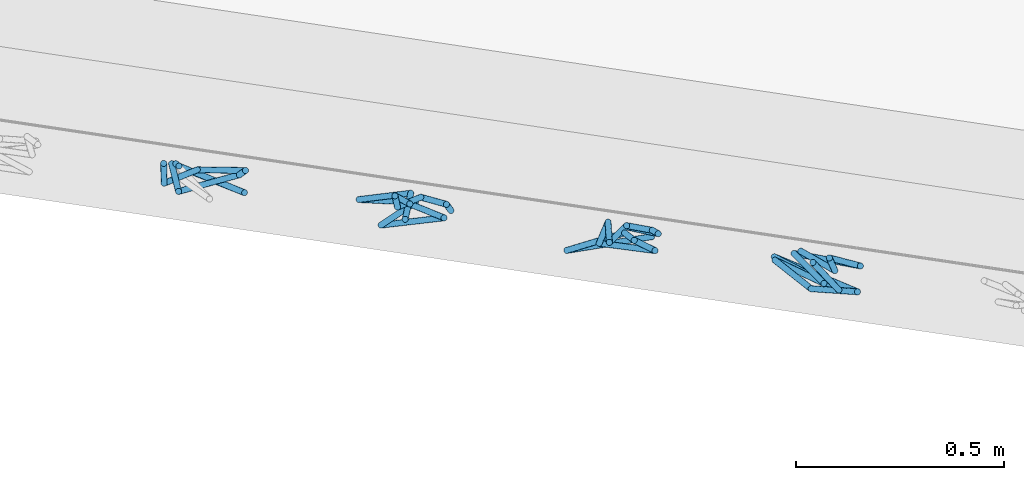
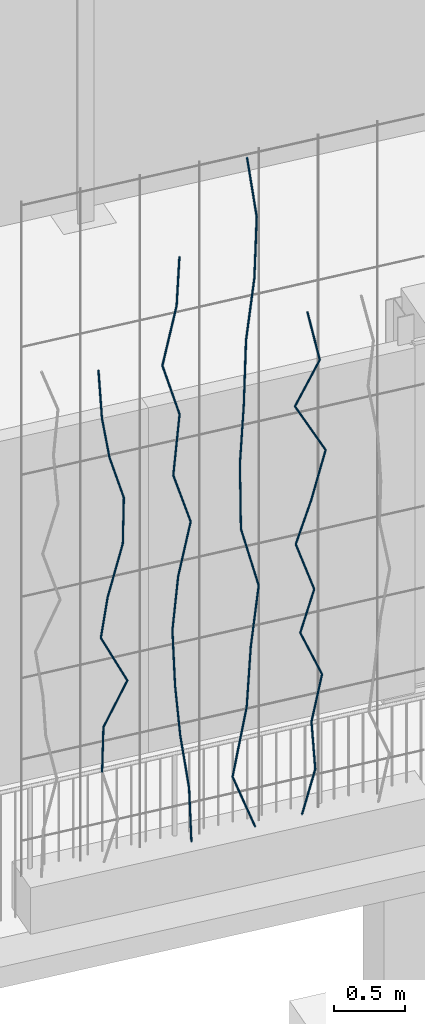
# One storey, part 112 of 143: 42 members, 1 element without a shape of its own.
"""IFC4 building model written with IfcOpenShell, lengths in metres."""

from ifc_helpers import new_model, si_unit, direction, frame, origin_with_axes, place, context, subcontext, project, spatial, circle, extrude, material, material_profile, profile_set, profile_usage, type_object, element, aggregate, save


model = new_model("IFC4")

# Units and contexts
model_context = context("Model", 3, precision=1e-05, world=origin_with_axes(), true_north=direction((0.0, 1.0)))
body_context = subcontext(model_context, "Body", "Model", "MODEL_VIEW")
ifc_project = project(units=[si_unit("VOLUMEUNIT", "CUBIC_METRE"), si_unit("LENGTHUNIT", "METRE"), si_unit("AREAUNIT", "SQUARE_METRE")], contexts=[model_context])

# Site, building, storey
site_placement = place(None, origin_with_axes())
site = spatial("IfcSite", under=ifc_project, at=site_placement, Name="Lares · Rua das Mercês · artigo 4771")
building_placement = place(site_placement, frame((15.0, 9.7, 15.8), z_axis=(0.0, 0.0, 1.0), x_axis=(0.989015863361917, -0.147809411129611, 0.0)))
building = spatial("IfcBuilding", under=site, at=building_placement, Name="Casa Sobreposta")
storey_placement = place(building_placement, origin_with_axes())
storey = spatial("IfcBuildingStorey", under=building, at=storey_placement, Name="00 · Habitação e estacionamento", Elevation=15.8)

# Assembly, members
assembly_placement = place(storey_placement, origin_with_axes())
assembly = element("IfcElementAssembly", 1, at=assembly_placement, inside=storey, Name="Fachada sul e pátio · estrutura e trepadeiras", ObjectType="LIVING_SHADE_TRELLIS", PredefinedType="USERDEFINED")
ifc_material = material(Name="Ramos de trepadeiras", Category="wood")
ifc_material_profile = material_profile(ifc_material, circle(Radius=0.0075))
ifc_profile_set = profile_set([ifc_material_profile], Name="D0.015")
ifc_profile_usage_1 = profile_usage(ifc_profile_set)
member_type = type_object("IfcMemberType", Name="D0.015 / vine_wood", PredefinedType="NOTDEFINED", material=ifc_profile_set)
member_1_placement = place(assembly_placement, frame((1.04551786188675, -1.65180114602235, 1.12023987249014), z_axis=(0.0216441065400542, -0.0116928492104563, 0.999697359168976), x_axis=(0.999765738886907, 0.000253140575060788, -0.0216426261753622)))
member_1 = element("IfcMember", 2, at=member_1_placement, type_object=member_type, material=ifc_profile_usage_1, Name="Trepadeiras · ramo", context=body_context, shape_type="SweptSolid", body=[
    extrude(circle(Radius=0.0075), origin_with_axes(), (0.0, 0.0, 1.0), 0.385236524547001),
])
ifc_profile_usage_2 = profile_usage(ifc_profile_set)
member_2_placement = place(assembly_placement, frame((1.05385596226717, -1.65630565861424, 1.50535980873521), z_axis=(0.393275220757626, -0.0947020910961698, 0.914530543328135), x_axis=(-0.234111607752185, -0.972209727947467, 0.0)))
member_2 = element("IfcMember", 3, at=member_2_placement, type_object=member_type, material=ifc_profile_usage_2, Name="Trepadeiras · ramo", context=body_context, shape_type="SweptSolid", body=[
    extrude(circle(Radius=0.0075), origin_with_axes(), (0.0, 0.0, 1.0), 0.421112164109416),
])
ifc_profile_usage_3 = profile_usage(ifc_profile_set)
member_3_placement = place(assembly_placement, frame((1.21946894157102, -1.69618586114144, 1.89047974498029), z_axis=(-0.42862490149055, 0.100433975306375, 0.89788290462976), x_axis=(0.228137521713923, 0.973628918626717, 0.0)))
member_3 = element("IfcMember", 4, at=member_3_placement, type_object=member_type, material=ifc_profile_usage_3, Name="Trepadeiras · ramo", context=body_context, shape_type="SweptSolid", body=[
    extrude(circle(Radius=0.0075), origin_with_axes(), (0.0, 0.0, 1.0), 0.428920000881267),
])
ifc_profile_usage_4 = profile_usage(ifc_profile_set)
member_4_placement = place(assembly_placement, frame((1.03562314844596, -1.65310772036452, 2.27559968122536), z_axis=(0.0671815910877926, -0.16244307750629, 0.984428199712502), x_axis=(-0.924089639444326, -0.382175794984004, 0.0)))
member_4 = element("IfcMember", 5, at=member_4_placement, type_object=member_type, material=ifc_profile_usage_4, Name="Trepadeiras · ramo", context=body_context, shape_type="SweptSolid", body=[
    extrude(circle(Radius=0.0075), origin_with_axes(), (0.0, 0.0, 1.0), 0.391211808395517),
])
ifc_profile_usage_5 = profile_usage(ifc_profile_set)
member_5_placement = place(assembly_placement, frame((1.0619053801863, -1.71665737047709, 2.66071961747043), z_axis=(0.335740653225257, 0.148049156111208, 0.930247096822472), x_axis=(0.403476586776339, -0.914989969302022, 0.0)))
member_5 = element("IfcMember", 6, at=member_5_placement, type_object=member_type, material=ifc_profile_usage_5, Name="Trepadeiras · ramo", context=body_context, shape_type="SweptSolid", body=[
    extrude(circle(Radius=0.0075), origin_with_axes(), (0.0, 0.0, 1.0), 0.413997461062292),
])
ifc_profile_usage_6 = profile_usage(ifc_profile_set)
member_6_placement = place(assembly_placement, frame((1.20090115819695, -1.65536539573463, 3.0458395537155), z_axis=(0.0333928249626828, 0.0321702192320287, 0.998924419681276), x_axis=(0.693800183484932, -0.720167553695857, 0.0)))
member_6 = element("IfcMember", 7, at=member_6_placement, type_object=member_type, material=ifc_profile_usage_6, Name="Trepadeiras · ramo", context=body_context, shape_type="SweptSolid", body=[
    extrude(circle(Radius=0.0075), origin_with_axes(), (0.0, 0.0, 1.0), 0.385534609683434),
])
ifc_profile_usage_7 = profile_usage(ifc_profile_set)
member_7_placement = place(assembly_placement, frame((1.21377524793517, -1.64296266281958, 3.43095948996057), z_axis=(-0.285637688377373, -0.0387161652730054, 0.957555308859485), x_axis=(-0.134314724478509, 0.990938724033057, 0.0)))
member_7 = element("IfcMember", 8, at=member_7_placement, type_object=member_type, material=ifc_profile_usage_7, Name="Trepadeiras · ramo", context=body_context, shape_type="SweptSolid", body=[
    extrude(circle(Radius=0.0075), origin_with_axes(), (0.0, 0.0, 1.0), 0.402190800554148),
])
ifc_profile_usage_8 = profile_usage(ifc_profile_set)
member_8_placement = place(assembly_placement, frame((1.09889439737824, -1.65853394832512, 3.81607942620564), z_axis=(-0.188349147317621, -0.110786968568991, 0.975833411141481), x_axis=(-0.506997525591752, 0.861947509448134, 0.0)))
member_8 = element("IfcMember", 9, at=member_8_placement, type_object=member_type, material=ifc_profile_usage_8, Name="Trepadeiras · ramo", context=body_context, shape_type="SweptSolid", body=[
    extrude(circle(Radius=0.0075), origin_with_axes(), (0.0, 0.0, 1.0), 0.394657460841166),
])
ifc_profile_usage_9 = profile_usage(ifc_profile_set)
member_9_placement = place(assembly_placement, frame((1.02456100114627, -1.70225685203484, 4.20119936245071), z_axis=(-0.020767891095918, 0.121017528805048, 0.992433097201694), x_axis=(0.985592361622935, 0.169138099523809, 0.0)))
member_9 = element("IfcMember", 10, at=member_9_placement, type_object=member_type, material=ifc_profile_usage_9, Name="Trepadeiras · ramo", context=body_context, shape_type="SweptSolid", body=[
    extrude(circle(Radius=0.0075), origin_with_axes(), (0.0, 0.0, 1.0), 0.388056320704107),
])
ifc_profile_usage_10 = profile_usage(ifc_profile_set)
member_10_placement = place(assembly_placement, frame((1.71733061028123, -1.66508877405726, 0.35), z_axis=(-0.0274245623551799, 0.0282673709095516, 0.999224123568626), x_axis=(0.999623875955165, 0.000775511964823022, 0.0274135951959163)))
member_10 = element("IfcMember", 11, at=member_10_placement, type_object=member_type, material=ifc_profile_usage_10, Name="Trepadeiras · ramo", context=body_context, shape_type="SweptSolid", body=[
    extrude(circle(Radius=0.0075), origin_with_axes(), (0.0, 0.0, 1.0), 0.463061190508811),
])
ifc_profile_usage_11 = profile_usage(ifc_profile_set)
member_11_placement = place(assembly_placement, frame((1.70463135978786, -1.65199925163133, 0.812701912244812), z_axis=(-0.136638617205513, 0.0166942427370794, 0.99048028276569), x_axis=(0.121276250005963, 0.992618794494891, 0.0)))
member_11 = element("IfcMember", 12, at=member_11_placement, type_object=member_type, material=ifc_profile_usage_11, Name="Trepadeiras · ramo", context=body_context, shape_type="SweptSolid", body=[
    extrude(circle(Radius=0.0075), origin_with_axes(), (0.0, 0.0, 1.0), 0.467149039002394),
])
ifc_profile_usage_12 = profile_usage(ifc_profile_set)
member_12_placement = place(assembly_placement, frame((1.64080076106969, -1.64420055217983, 1.27540382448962), z_axis=(-0.111142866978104, -0.0681510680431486, 0.991464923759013), x_axis=(-0.522736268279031, 0.852494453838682, 0.0)))
member_12 = element("IfcMember", 13, at=member_12_placement, type_object=member_type, material=ifc_profile_usage_12, Name="Trepadeiras · ramo", context=body_context, shape_type="SweptSolid", body=[
    extrude(circle(Radius=0.0075), origin_with_axes(), (0.0, 0.0, 1.0), 0.466685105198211),
])
ifc_profile_usage_13 = profile_usage(ifc_profile_set)
member_13_placement = place(assembly_placement, frame((1.58893204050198, -1.67600564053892, 1.73810573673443), z_axis=(-0.0213857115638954, 0.0558126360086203, 0.998212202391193), x_axis=(0.933797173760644, 0.357802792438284, 0.0)))
member_13 = element("IfcMember", 14, at=member_13_placement, type_object=member_type, material=ifc_profile_usage_13, Name="Trepadeiras · ramo", context=body_context, shape_type="SweptSolid", body=[
    extrude(circle(Radius=0.0075), origin_with_axes(), (0.0, 0.0, 1.0), 0.463530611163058),
])
ifc_profile_usage_14 = profile_usage(ifc_profile_set)
member_14_placement = place(assembly_placement, frame((1.57901910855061, -1.65013477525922, 2.20080764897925), z_axis=(0.0820466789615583, -0.0300995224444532, 0.996173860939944), x_axis=(-0.344413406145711, -0.938818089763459, 0.0)))
member_14 = element("IfcMember", 15, at=member_14_placement, type_object=member_type, material=ifc_profile_usage_14, Name="Trepadeiras · ramo", context=body_context, shape_type="SweptSolid", body=[
    extrude(circle(Radius=0.0075), origin_with_axes(), (0.0, 0.0, 1.0), 0.464479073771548),
])
ifc_profile_usage_15 = profile_usage(ifc_profile_set)
member_15_placement = place(assembly_placement, frame((1.61712807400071, -1.66411537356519, 2.66350956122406), z_axis=(0.183682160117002, -0.0443518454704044, 0.981984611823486), x_axis=(-0.234714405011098, -0.972064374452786, 0.0)))
member_15 = element("IfcMember", 16, at=member_15_placement, type_object=member_type, material=ifc_profile_usage_15, Name="Trepadeiras · ramo", context=body_context, shape_type="SweptSolid", body=[
    extrude(circle(Radius=0.0075), origin_with_axes(), (0.0, 0.0, 1.0), 0.471190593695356),
])
ifc_profile_usage_16 = profile_usage(ifc_profile_set)
member_16_placement = place(assembly_placement, frame((1.70367738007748, -1.68501354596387, 3.12621147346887), z_axis=(-0.302591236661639, -0.0817091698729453, 0.949611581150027), x_axis=(-0.26069420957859, 0.965421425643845, 0.0)))
member_16 = element("IfcMember", 17, at=member_16_placement, type_object=member_type, material=ifc_profile_usage_16, Name="Trepadeiras · ramo", context=body_context, shape_type="SweptSolid", body=[
    extrude(circle(Radius=0.0075), origin_with_axes(), (0.0, 0.0, 1.0), 0.48725386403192),
])
ifc_profile_usage_17 = profile_usage(ifc_profile_set)
member_17_placement = place(assembly_placement, frame((1.5562386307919, -1.72482665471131, 3.58891338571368), z_axis=(0.156237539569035, 0.141385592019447, 0.97754792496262), x_axis=(0.670985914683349, -0.741470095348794, 0.0)))
member_17 = element("IfcMember", 18, at=member_17_placement, type_object=member_type, material=ifc_profile_usage_17, Name="Trepadeiras · ramo", context=body_context, shape_type="SweptSolid", body=[
    extrude(circle(Radius=0.0075), origin_with_axes(), (0.0, 0.0, 1.0), 0.473329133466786),
])
ifc_profile_usage_18 = profile_usage(ifc_profile_set)
member_18_placement = place(assembly_placement, frame((1.6301904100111, -1.65790473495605, 4.05161529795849), z_axis=(-0.280938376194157, -0.0286551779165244, 0.959297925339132), x_axis=(-0.101471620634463, 0.994838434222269, -5.89284812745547e-18)))
member_18 = element("IfcMember", 19, at=member_18_placement, type_object=member_type, material=ifc_profile_usage_18, Name="Trepadeiras · ramo", context=body_context, shape_type="SweptSolid", body=[
    extrude(circle(Radius=0.0075), origin_with_axes(), (0.0, 0.0, 1.0), 0.482333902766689),
])
ifc_profile_usage_19 = profile_usage(ifc_profile_set)
member_19_placement = place(assembly_placement, frame((1.49468430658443, -1.671726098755, 4.5143172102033), z_axis=(0.252230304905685, 0.0696713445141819, 0.965155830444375), x_axis=(0.266250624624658, -0.963903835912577, 0.0)))
member_19 = element("IfcMember", 20, at=member_19_placement, type_object=member_type, material=ifc_profile_usage_19, Name="Trepadeiras · ramo", context=body_context, shape_type="SweptSolid", body=[
    extrude(circle(Radius=0.0075), origin_with_axes(), (0.0, 0.0, 1.0), 0.479406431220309),
])
ifc_profile_usage_20 = profile_usage(ifc_profile_set)
member_20_placement = place(assembly_placement, frame((1.61560513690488, -1.63832520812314, 4.97701912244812), z_axis=(-0.00860203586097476, -0.137344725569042, 0.990485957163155), x_axis=(-0.998044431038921, 0.0625085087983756, 0.0)))
member_20 = element("IfcMember", 21, at=member_20_placement, type_object=member_type, material=ifc_profile_usage_20, Name="Trepadeiras · ramo", context=body_context, shape_type="SweptSolid", body=[
    extrude(circle(Radius=0.0075), origin_with_axes(), (0.0, 0.0, 1.0), 0.467146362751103),
])
ifc_profile_usage_21 = profile_usage(ifc_profile_set)
member_21_placement = place(assembly_placement, frame((2.20504544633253, -1.65602444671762, 0.35), z_axis=(-0.350256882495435, -0.111665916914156, 0.929973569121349), x_axis=(-0.303748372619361, 0.952752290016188, 0.0)))
member_21 = element("IfcMember", 22, at=member_21_placement, type_object=member_type, material=ifc_profile_usage_21, Name="Trepadeiras · ramo", context=body_context, shape_type="SweptSolid", body=[
    extrude(circle(Radius=0.0075), origin_with_axes(), (0.0, 0.0, 1.0), 0.563663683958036),
])
ifc_profile_usage_22 = profile_usage(ifc_profile_set)
member_22_placement = place(assembly_placement, frame((2.0076183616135, -1.718966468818, 0.874192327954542), z_axis=(0.241728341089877, 0.114522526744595, 0.963562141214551), x_axis=(0.428146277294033, -0.903709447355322, 0.0)))
member_22 = element("IfcMember", 23, at=member_22_placement, type_object=member_type, material=ifc_profile_usage_22, Name="Trepadeiras · ramo", context=body_context, shape_type="SweptSolid", body=[
    extrude(circle(Radius=0.0075), origin_with_axes(), (0.0, 0.0, 1.0), 0.544015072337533),
])
ifc_profile_usage_23 = profile_usage(ifc_profile_set)
member_23_placement = place(assembly_placement, frame((2.13912222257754, -1.65666448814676, 1.39838465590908), z_axis=(0.0486686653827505, -0.0273178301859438, 0.998441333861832), x_axis=(-0.489467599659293, -0.872021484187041, 0.0)))
member_23 = element("IfcMember", 24, at=member_23_placement, type_object=member_type, material=ifc_profile_usage_23, Name="Trepadeiras · ramo", context=body_context, shape_type="SweptSolid", body=[
    extrude(circle(Radius=0.0075), origin_with_axes(), (0.0, 0.0, 1.0), 0.525010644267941),
])
ifc_profile_usage_24 = profile_usage(ifc_profile_set)
member_24_placement = place(assembly_placement, frame((2.1646737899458, -1.67100663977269, 1.92257698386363), z_axis=(0.101136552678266, -0.0322293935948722, 0.99435037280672), x_axis=(-0.30362778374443, -0.952790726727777, 0.0)))
member_24 = element("IfcMember", 25, at=member_24_placement, type_object=member_type, material=ifc_profile_usage_24, Name="Trepadeiras · ramo", context=body_context, shape_type="SweptSolid", body=[
    extrude(circle(Radius=0.0075), origin_with_axes(), (0.0, 0.0, 1.0), 0.527170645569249),
])
ifc_profile_usage_25 = profile_usage(ifc_profile_set)
member_25_placement = place(assembly_placement, frame((2.21799001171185, -1.6879970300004, 2.44676931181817), z_axis=(-0.250762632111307, -0.00458018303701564, 0.968037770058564), x_axis=(-0.0182619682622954, 0.999833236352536, -8.36945774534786e-19)))
member_25 = element("IfcMember", 26, at=member_25_placement, type_object=member_type, material=ifc_profile_usage_25, Name="Trepadeiras · ramo", context=body_context, shape_type="SweptSolid", body=[
    extrude(circle(Radius=0.0075), origin_with_axes(), (0.0, 0.0, 1.0), 0.541499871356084),
])
ifc_profile_usage_26 = profile_usage(ifc_profile_set)
member_26_placement = place(assembly_placement, frame((2.08220207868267, -1.69047719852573, 2.97096163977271), z_axis=(0.025812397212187, 0.101382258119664, 0.994512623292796), x_axis=(0.969083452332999, -0.246733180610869, 0.0)))
member_26 = element("IfcMember", 27, at=member_26_placement, type_object=member_type, material=ifc_profile_usage_26, Name="Trepadeiras · ramo", context=body_context, shape_type="SweptSolid", body=[
    extrude(circle(Radius=0.0075), origin_with_axes(), (0.0, 0.0, 1.0), 0.527084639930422),
])
ifc_profile_usage_27 = profile_usage(ifc_profile_set)
member_27_placement = place(assembly_placement, frame((2.09580739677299, -1.6370401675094, 3.49515396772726), z_axis=(0.0194798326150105, -0.0905860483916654, 0.995698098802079), x_axis=(-0.977650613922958, -0.210236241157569, 0.0)))
member_27 = element("IfcMember", 28, at=member_27_placement, type_object=member_type, material=ifc_profile_usage_27, Name="Trepadeiras · ramo", context=body_context, shape_type="SweptSolid", body=[
    extrude(circle(Radius=0.0075), origin_with_axes(), (0.0, 0.0, 1.0), 0.526457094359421),
])
ifc_profile_usage_28 = profile_usage(ifc_profile_set)
member_28_placement = place(assembly_placement, frame((2.1060626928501, -1.68472983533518, 4.0193462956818), z_axis=(0.0669423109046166, 0.0872603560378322, 0.993933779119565), x_axis=(0.793418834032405, -0.608676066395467, 0.0)))
member_28 = element("IfcMember", 29, at=member_28_placement, type_object=member_type, material=ifc_profile_usage_28, Name="Trepadeiras · ramo", context=body_context, shape_type="SweptSolid", body=[
    extrude(circle(Radius=0.0075), origin_with_axes(), (0.0, 0.0, 1.0), 0.527391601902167),
])
ifc_profile_usage_29 = profile_usage(ifc_profile_set)
member_29_placement = place(assembly_placement, frame((2.14136750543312, -1.63870945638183, 4.54353862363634), z_axis=(0.118893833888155, -0.00365784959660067, 0.992900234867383), x_axis=(-0.0307511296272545, -0.999527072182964, 0.0)))
member_29 = element("IfcMember", 30, at=member_29_placement, type_object=member_type, material=ifc_profile_usage_29, Name="Trepadeiras · ramo", context=body_context, shape_type="SweptSolid", body=[
    extrude(circle(Radius=0.0075), origin_with_axes(), (0.0, 0.0, 1.0), 0.527940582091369),
])
ifc_profile_usage_30 = profile_usage(ifc_profile_set)
member_30_placement = place(assembly_placement, frame((2.2041363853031, -1.64064058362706, 5.06773095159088), z_axis=(0.0291414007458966, -0.0113355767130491, 0.999511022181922), x_axis=(0.999575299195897, 0.000330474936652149, -0.0291395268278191)))
member_30 = element("IfcMember", 31, at=member_30_placement, type_object=member_type, material=ifc_profile_usage_30, Name="Trepadeiras · ramo", context=body_context, shape_type="SweptSolid", body=[
    extrude(circle(Radius=0.0075), origin_with_axes(), (0.0, 0.0, 1.0), 0.524448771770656),
])
ifc_profile_usage_31 = profile_usage(ifc_profile_set)
member_31_placement = place(assembly_placement, frame((2.21941955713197, -1.64658551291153, 5.59192327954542), z_axis=(-0.13503851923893, 0.00826567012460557, 0.99080587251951), x_axis=(0.0610953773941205, 0.998131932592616, 0.0)))
member_31 = element("IfcMember", 32, at=member_31_placement, type_object=member_type, material=ifc_profile_usage_31, Name="Trepadeiras · ramo", context=body_context, shape_type="SweptSolid", body=[
    extrude(circle(Radius=0.0075), origin_with_axes(), (0.0, 0.0, 1.0), 0.529056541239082),
])
ifc_profile_usage_32 = profile_usage(ifc_profile_set)
member_32_placement = place(assembly_placement, frame((2.5650621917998, -1.63745860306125, 0.35), z_axis=(0.217584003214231, -0.0844428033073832, 0.972381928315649), x_axis=(-0.361801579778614, -0.932255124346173, 0.0)))
member_32 = element("IfcMember", 33, at=member_32_placement, type_object=member_type, material=ifc_profile_usage_32, Name="Trepadeiras · ramo", context=body_context, shape_type="SweptSolid", body=[
    extrude(circle(Radius=0.0075), origin_with_axes(), (0.0, 0.0, 1.0), 0.405295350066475),
])
ifc_profile_usage_33 = profile_usage(ifc_profile_set)
member_33_placement = place(assembly_placement, frame((2.65324797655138, -1.67168287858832, 0.744101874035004), z_axis=(-0.0446122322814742, 0.071783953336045, 0.99642200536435), x_axis=(0.849339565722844, 0.527846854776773, 0.0)))
member_33 = element("IfcMember", 34, at=member_33_placement, type_object=member_type, material=ifc_profile_usage_33, Name="Trepadeiras · ramo", context=body_context, shape_type="SweptSolid", body=[
    extrude(circle(Radius=0.0075), origin_with_axes(), (0.0, 0.0, 1.0), 0.395517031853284),
])
ifc_profile_usage_34 = profile_usage(ifc_profile_set)
member_34_placement = place(assembly_placement, frame((2.63560307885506, -1.64329110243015, 1.13820374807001), z_axis=(0.191217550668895, -0.0202648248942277, 0.981338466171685), x_axis=(-0.105387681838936, -0.99443121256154, 0.0)))
member_34 = element("IfcMember", 35, at=member_34_placement, type_object=member_type, material=ifc_profile_usage_34, Name="Trepadeiras · ramo", context=body_context, shape_type="SweptSolid", body=[
    extrude(circle(Radius=0.0075), origin_with_axes(), (0.0, 0.0, 1.0), 0.401596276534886),
])
ifc_profile_usage_35 = profile_usage(ifc_profile_set)
member_35_placement = place(assembly_placement, frame((2.71239533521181, -1.6514293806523, 1.53230562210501), z_axis=(-0.381397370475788, 0.0145458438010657, 0.924296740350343), x_axis=(0.0381105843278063, 0.999273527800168, 0.0)))
member_35 = element("IfcMember", 36, at=member_35_placement, type_object=member_type, material=ifc_profile_usage_35, Name="Trepadeiras · ramo", context=body_context, shape_type="SweptSolid", body=[
    extrude(circle(Radius=0.0075), origin_with_axes(), (0.0, 0.0, 1.0), 0.426380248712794),
])
ifc_profile_usage_36 = profile_usage(ifc_profile_set)
member_36_placement = place(assembly_placement, frame((2.54977502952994, -1.64522732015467, 1.92640749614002), z_axis=(0.201463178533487, -0.149567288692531, 0.968009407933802), x_axis=(-0.596090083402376, -0.802917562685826, 0.0)))
member_36 = element("IfcMember", 37, at=member_36_placement, type_object=member_type, material=ifc_profile_usage_36, Name="Trepadeiras · ramo", context=body_context, shape_type="SweptSolid", body=[
    extrude(circle(Radius=0.0075), origin_with_axes(), (0.0, 0.0, 1.0), 0.407126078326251),
])
ifc_profile_usage_37 = profile_usage(ifc_profile_set)
member_37_placement = place(assembly_placement, frame((2.63179594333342, -1.70612006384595, 2.32050937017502), z_axis=(-0.301300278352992, 0.0916413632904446, 0.949115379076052), x_axis=(0.290990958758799, 0.956725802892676, 0.0)))
member_37 = element("IfcMember", 38, at=member_37_placement, type_object=member_type, material=ifc_profile_usage_37, Name="Trepadeiras · ramo", context=body_context, shape_type="SweptSolid", body=[
    extrude(circle(Radius=0.0075), origin_with_axes(), (0.0, 0.0, 1.0), 0.415230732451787),
])
ifc_profile_usage_38 = profile_usage(ifc_profile_set)
member_38_placement = place(assembly_placement, frame((2.50668680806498, -1.66806775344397, 2.71461124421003), z_axis=(0.235443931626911, -0.134776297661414, 0.962497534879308), x_axis=(-0.496797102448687, -0.86786671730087, 0.0)))
member_38 = element("IfcMember", 39, at=member_38_placement, type_object=member_type, material=ifc_profile_usage_38, Name="Trepadeiras · ramo", context=body_context, shape_type="SweptSolid", body=[
    extrude(circle(Radius=0.0075), origin_with_axes(), (0.0, 0.0, 1.0), 0.40945754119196),
])
ifc_profile_usage_39 = profile_usage(ifc_profile_set)
member_39_placement = place(assembly_placement, frame((2.6030911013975, -1.72325292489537, 3.10871311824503), z_axis=(0.272680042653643, 0.0225825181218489, 0.961839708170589), x_axis=(0.0825343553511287, -0.996588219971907, 0.0)))
member_39 = element("IfcMember", 40, at=member_39_placement, type_object=member_type, material=ifc_profile_usage_39, Name="Trepadeiras · ramo", context=body_context, shape_type="SweptSolid", body=[
    extrude(circle(Radius=0.0075), origin_with_axes(), (0.0, 0.0, 1.0), 0.409737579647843),
])
ifc_profile_usage_40 = profile_usage(ifc_profile_set)
member_40_placement = place(assembly_placement, frame((2.71481836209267, -1.71400001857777, 3.50281499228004), z_axis=(-0.468904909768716, 0.119291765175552, 0.875155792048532), x_axis=(0.246551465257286, 0.969129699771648, 0.0)))
member_40 = element("IfcMember", 41, at=member_40_placement, type_object=member_type, material=ifc_profile_usage_40, Name="Trepadeiras · ramo", context=body_context, shape_type="SweptSolid", body=[
    extrude(circle(Radius=0.0075), origin_with_axes(), (0.0, 0.0, 1.0), 0.45032196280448),
])
ifc_profile_usage_41 = profile_usage(ifc_profile_set)
member_41_placement = place(assembly_placement, frame((2.50366018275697, -1.66028031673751, 3.89691686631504), z_axis=(0.38480684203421, -0.130123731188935, 0.913778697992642), x_axis=(-0.320334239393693, -0.947304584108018, 0.0)))
member_41 = element("IfcMember", 42, at=member_41_placement, type_object=member_type, material=ifc_profile_usage_41, Name="Trepadeiras · ramo", context=body_context, shape_type="SweptSolid", body=[
    extrude(circle(Radius=0.0075), origin_with_axes(), (0.0, 0.0, 1.0), 0.431288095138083),
])
ifc_profile_usage_42 = profile_usage(ifc_profile_set)
member_42_placement = place(assembly_placement, frame((2.669622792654, -1.71640113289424, 4.29101874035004), z_axis=(-0.176688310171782, 0.139007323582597, 0.974401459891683), x_axis=(0.61831865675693, 0.785927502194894, 0.0)))
member_42 = element("IfcMember", 43, at=member_42_placement, type_object=member_type, material=ifc_profile_usage_42, Name="Trepadeiras · ramo", context=body_context, shape_type="SweptSolid", body=[
    extrude(circle(Radius=0.0075), origin_with_axes(), (0.0, 0.0, 1.0), 0.404455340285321),
])
aggregate(assembly, [member_1, member_2, member_3, member_4, member_5, member_6, member_7, member_8, member_9, member_10, member_11, member_12, member_13, member_14, member_15, member_16, member_17, member_18, member_19, member_20, member_21, member_22, member_23, member_24, member_25, member_26, member_27, member_28, member_29, member_30, member_31, member_32, member_33, member_34, member_35, member_36, member_37, member_38, member_39, member_40, member_41, member_42])

save(model, "model.ifc")
